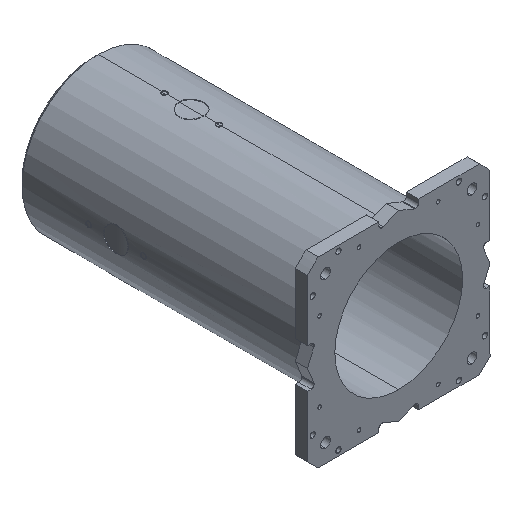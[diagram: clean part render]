
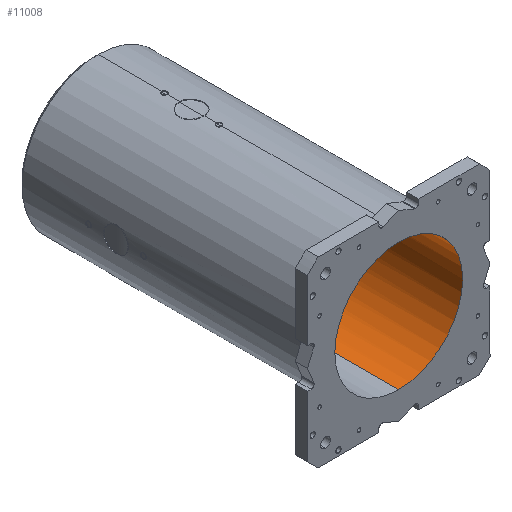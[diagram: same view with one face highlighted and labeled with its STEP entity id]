
A CAD part, isometric view. The second image highlights one B-rep face of the part: STEP entity #11008.
In plain terms, the highlighted cylindrical face has radius 105 mm (diameter 210 mm), a partial arc.
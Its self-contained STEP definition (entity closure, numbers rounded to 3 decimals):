
#1 = DIRECTION ( 'NONE',  ( 0., 1., 0. ) ) ;
#251 = CARTESIAN_POINT ( 'NONE',  ( 65.645, 482., 81.95 ) ) ;
#260 = CARTESIAN_POINT ( 'NONE',  ( 0., 482., -105. ) ) ;
#322 = LINE ( 'NONE', #8761, #9924 ) ;
#733 = DIRECTION ( 'NONE',  ( 0., 1., 0. ) ) ;
#736 = ORIENTED_EDGE ( 'NONE', *, *, #1814, .T. ) ;
#852 = AXIS2_PLACEMENT_3D ( 'NONE', #5385, #1, #3328 ) ;
#1023 = DIRECTION ( 'NONE',  ( 0., 1., 0. ) ) ;
#1180 = VERTEX_POINT ( 'NONE', #9591 ) ;
#1285 = VERTEX_POINT ( 'NONE', #251 ) ;
#1620 = LINE ( 'NONE', #8806, #3377 ) ;
#1814 = EDGE_CURVE ( 'NONE', #8342, #4375, #11773, .T. ) ;
#1839 = DIRECTION ( 'NONE',  ( 0., 1., 0. ) ) ;
#1886 = ORIENTED_EDGE ( 'NONE', *, *, #10445, .T. ) ;
#1913 = CARTESIAN_POINT ( 'NONE',  ( 57.845, 482., 87.63 ) ) ;
#2171 = CIRCLE ( 'NONE', #852, 105. ) ;
#2175 = DIRECTION ( 'NONE',  ( 0., 0., 1. ) ) ;
#2186 = VERTEX_POINT ( 'NONE', #260 ) ;
#2692 = CARTESIAN_POINT ( 'NONE',  ( 0., 482., 0. ) ) ;
#2828 = EDGE_CURVE ( 'NONE', #10103, #2186, #8787, .T. ) ;
#2953 = AXIS2_PLACEMENT_3D ( 'NONE', #13266, #6791, #10998 ) ;
#3054 = EDGE_CURVE ( 'NONE', #8018, #8297, #2171, .T. ) ;
#3153 = CARTESIAN_POINT ( 'NONE',  ( 0., 482., 0. ) ) ;
#3222 = CARTESIAN_POINT ( 'NONE',  ( 0., 482., 0. ) ) ;
#3328 = DIRECTION ( 'NONE',  ( 0., 0., 1. ) ) ;
#3355 = EDGE_CURVE ( 'NONE', #8297, #1285, #11874, .T. ) ;
#3377 = VECTOR ( 'NONE', #11015, 1000. ) ;
#3522 = AXIS2_PLACEMENT_3D ( 'NONE', #9386, #13570, #4139 ) ;
#3593 = DIRECTION ( 'NONE',  ( 0., 1., 0. ) ) ;
#3741 = CARTESIAN_POINT ( 'NONE',  ( 76.483, 482., -71.94 ) ) ;
#3758 = DIRECTION ( 'NONE',  ( 0., 1., 0. ) ) ;
#3847 = DIRECTION ( 'NONE',  ( 0., 0., 1. ) ) ;
#3873 = ORIENTED_EDGE ( 'NONE', *, *, #4204, .T. ) ;
#3950 = AXIS2_PLACEMENT_3D ( 'NONE', #7982, #9092, #3847 ) ;
#4110 = CIRCLE ( 'NONE', #12239, 105. ) ;
#4117 = CIRCLE ( 'NONE', #10503, 105. ) ;
#4139 = DIRECTION ( 'NONE',  ( 0., 0., 1. ) ) ;
#4204 = EDGE_CURVE ( 'NONE', #11605, #10103, #10572, .T. ) ;
#4291 = VERTEX_POINT ( 'NONE', #6343 ) ;
#4375 = VERTEX_POINT ( 'NONE', #6541 ) ;
#4523 = ORIENTED_EDGE ( 'NONE', *, *, #11214, .T. ) ;
#4723 = ORIENTED_EDGE ( 'NONE', *, *, #3054, .T. ) ;
#4869 = VERTEX_POINT ( 'NONE', #11658 ) ;
#4938 = DIRECTION ( 'NONE',  ( 0., 0., 1. ) ) ;
#5181 = CARTESIAN_POINT ( 'NONE',  ( 0., 0., 0. ) ) ;
#5385 = CARTESIAN_POINT ( 'NONE',  ( 0., 482., 0. ) ) ;
#5496 = EDGE_CURVE ( 'NONE', #1285, #8342, #4110, .T. ) ;
#5705 = EDGE_CURVE ( 'NONE', #4869, #6306, #4117, .T. ) ;
#5858 = DIRECTION ( 'NONE',  ( 0., 1., 0. ) ) ;
#5980 = EDGE_CURVE ( 'NONE', #1180, #8018, #12031, .T. ) ;
#5997 = DIRECTION ( 'NONE',  ( 0., 0., 1. ) ) ;
#6081 = AXIS2_PLACEMENT_3D ( 'NONE', #3153, #1839, #12466 ) ;
#6086 = EDGE_LOOP ( 'NONE', ( #13038, #9255, #9779, #13018, #4723, #9896, #12278, #736, #4523, #1886, #3873, #8683 ) ) ;
#6306 = VERTEX_POINT ( 'NONE', #9329 ) ;
#6343 = CARTESIAN_POINT ( 'NONE',  ( 76.483, 482., 71.94 ) ) ;
#6541 = CARTESIAN_POINT ( 'NONE',  ( 71.94, 482., 76.483 ) ) ;
#6552 = DIRECTION ( 'NONE',  ( 0., 0., 1. ) ) ;
#6791 = DIRECTION ( 'NONE',  ( 0., 1., 0. ) ) ;
#6865 = CARTESIAN_POINT ( 'NONE',  ( 69.052, 482., 79.1 ) ) ;
#7000 = EDGE_CURVE ( 'NONE', #6306, #2186, #322, .T. ) ;
#7385 = CARTESIAN_POINT ( 'NONE',  ( 71.94, 482., -76.483 ) ) ;
#7470 = AXIS2_PLACEMENT_3D ( 'NONE', #3222, #1023, #2175 ) ;
#7754 = DIRECTION ( 'NONE',  ( 0., 1., 0. ) ) ;
#7961 = DIRECTION ( 'NONE',  ( 0., 0., 1. ) ) ;
#7982 = CARTESIAN_POINT ( 'NONE',  ( 0., 482., 0. ) ) ;
#8018 = VERTEX_POINT ( 'NONE', #1913 ) ;
#8055 = FACE_OUTER_BOUND ( 'NONE', #6086, .T. ) ;
#8297 = VERTEX_POINT ( 'NONE', #8827 ) ;
#8342 = VERTEX_POINT ( 'NONE', #6865 ) ;
#8664 = CIRCLE ( 'NONE', #13060, 105. ) ;
#8683 = ORIENTED_EDGE ( 'NONE', *, *, #2828, .T. ) ;
#8761 = CARTESIAN_POINT ( 'NONE',  ( 0., 0., -105. ) ) ;
#8787 = CIRCLE ( 'NONE', #3950, 105. ) ;
#8806 = CARTESIAN_POINT ( 'NONE',  ( 0., 0., 105. ) ) ;
#8827 = CARTESIAN_POINT ( 'NONE',  ( 63.2, 482., 83.85 ) ) ;
#8989 = CARTESIAN_POINT ( 'NONE',  ( 0., 482., 0. ) ) ;
#9092 = DIRECTION ( 'NONE',  ( 0., 1., 0. ) ) ;
#9255 = ORIENTED_EDGE ( 'NONE', *, *, #5705, .F. ) ;
#9329 = CARTESIAN_POINT ( 'NONE',  ( 0., 0., -105. ) ) ;
#9386 = CARTESIAN_POINT ( 'NONE',  ( 0., 482., 0. ) ) ;
#9591 = CARTESIAN_POINT ( 'NONE',  ( 0., 482., 105. ) ) ;
#9779 = ORIENTED_EDGE ( 'NONE', *, *, #12233, .T. ) ;
#9896 = ORIENTED_EDGE ( 'NONE', *, *, #3355, .T. ) ;
#9924 = VECTOR ( 'NONE', #3593, 1000. ) ;
#10103 = VERTEX_POINT ( 'NONE', #7385 ) ;
#10206 = CARTESIAN_POINT ( 'NONE',  ( 0., 0., 0. ) ) ;
#10445 = EDGE_CURVE ( 'NONE', #4291, #11605, #8664, .T. ) ;
#10503 = AXIS2_PLACEMENT_3D ( 'NONE', #5181, #10822, #6552 ) ;
#10572 = CIRCLE ( 'NONE', #3522, 105. ) ;
#10656 = AXIS2_PLACEMENT_3D ( 'NONE', #10206, #733, #4938 ) ;
#10822 = DIRECTION ( 'NONE',  ( 0., 1., 0. ) ) ;
#10928 = DIRECTION ( 'NONE',  ( 0., 0., 1. ) ) ;
#10998 = DIRECTION ( 'NONE',  ( 0., 0., 1. ) ) ;
#11008 = ADVANCED_FACE ( 'NONE', ( #8055 ), #12258, .F. ) ;
#11015 = DIRECTION ( 'NONE',  ( 0., 1., 0. ) ) ;
#11214 = EDGE_CURVE ( 'NONE', #4375, #4291, #11753, .T. ) ;
#11605 = VERTEX_POINT ( 'NONE', #3741 ) ;
#11658 = CARTESIAN_POINT ( 'NONE',  ( 0., 0., 105. ) ) ;
#11753 = CIRCLE ( 'NONE', #2953, 105. ) ;
#11773 = CIRCLE ( 'NONE', #12658, 105. ) ;
#11874 = CIRCLE ( 'NONE', #7470, 105. ) ;
#11959 = CARTESIAN_POINT ( 'NONE',  ( 0., 482., 0. ) ) ;
#12031 = CIRCLE ( 'NONE', #6081, 105. ) ;
#12233 = EDGE_CURVE ( 'NONE', #4869, #1180, #1620, .T. ) ;
#12239 = AXIS2_PLACEMENT_3D ( 'NONE', #8989, #3758, #7961 ) ;
#12258 = CYLINDRICAL_SURFACE ( 'NONE', #10656, 105. ) ;
#12278 = ORIENTED_EDGE ( 'NONE', *, *, #5496, .T. ) ;
#12466 = DIRECTION ( 'NONE',  ( 0., 0., 1. ) ) ;
#12658 = AXIS2_PLACEMENT_3D ( 'NONE', #11959, #7754, #10928 ) ;
#13018 = ORIENTED_EDGE ( 'NONE', *, *, #5980, .T. ) ;
#13038 = ORIENTED_EDGE ( 'NONE', *, *, #7000, .F. ) ;
#13060 = AXIS2_PLACEMENT_3D ( 'NONE', #2692, #5858, #5997 ) ;
#13266 = CARTESIAN_POINT ( 'NONE',  ( 0., 482., 0. ) ) ;
#13570 = DIRECTION ( 'NONE',  ( 0., 1., 0. ) ) ;
